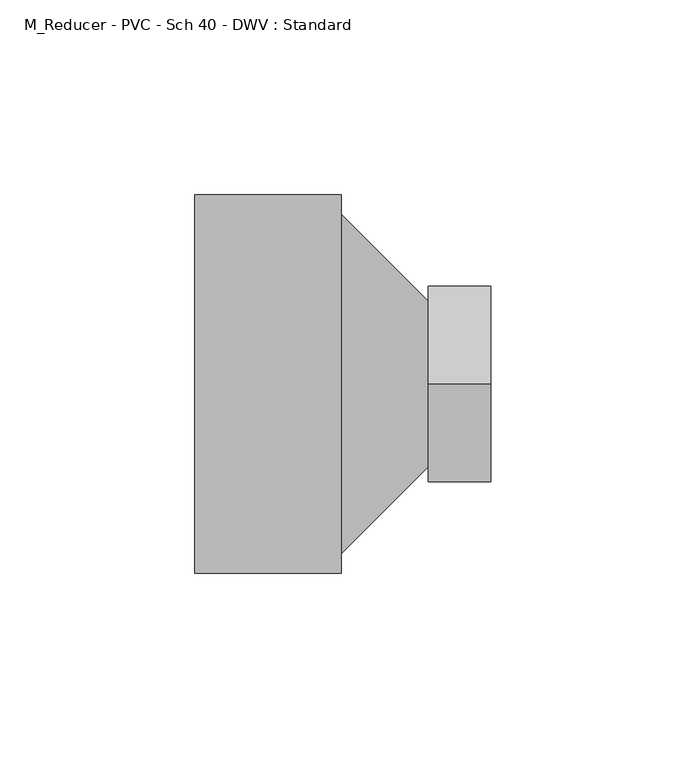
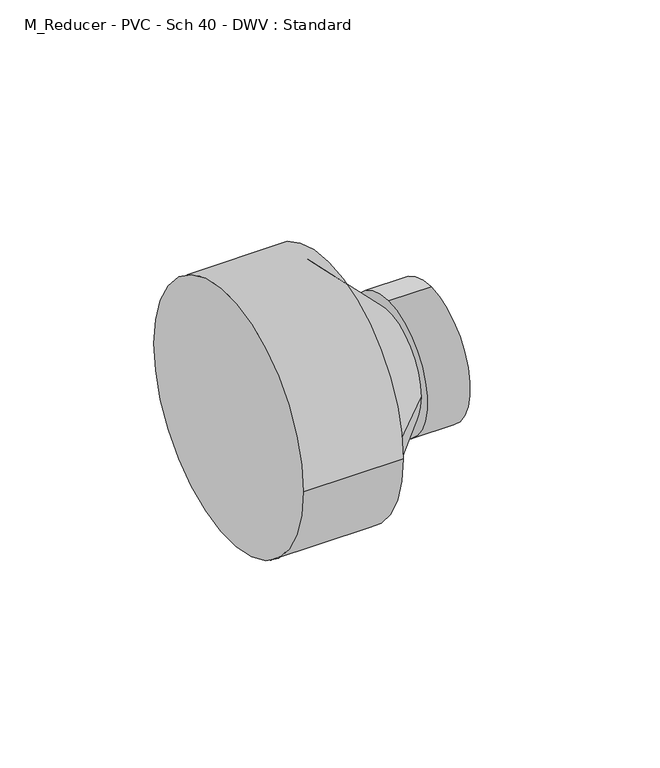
"""IFC4 building model written with IfcOpenShell, lengths in millimetres: pipe fitting geometry, M_Reducer - PVC - Sch 40 - DWV : Standard."""

from ifc_helpers import new_model, si_unit, frame, origin, place, context, project, spatial, polyline, circle_curve, source, transform, mapped, element, save
from ifc_brep_helpers import plane_surface, cylinder_surface, revolved_surface, advanced_brep


def m_reducer_pvc_sch_40_dwv_standard_5cc089c8(model_context):
    return source(origin(), model_context, "Body", "AdvancedBrep", [
        advanced_brep(
        [(0.0, -48.4871094, 0.0), (0.0, 48.4871094, 0.0), (37.5, -48.4871094, 0.0), (37.5, 48.4871094, 0.0), (37.5, 43.5640625, 0.0), (37.5, -43.5640625, 0.0), (59.9060938, 21.2040625, 0.0), (59.9060938, -21.2040625, 0.0), (59.9060938, 0.0, 25.2671094), (59.9060938, 0.0, -25.2671094), (75.9060938, 0.0, 25.2671094), (75.9060938, 0.0, -25.2671094)],
        [
            (0, 1, circle_curve(frame((0.0, 0.0, 0.0), z_axis=(-1.0, 0.0, 0.0), x_axis=(0.0, 1.0, 0.0)), 48.4871094)),
            (1, 0, circle_curve(frame((0.0, 0.0, 0.0), z_axis=(-1.0, 0.0, 0.0), x_axis=(0.0, 1.0, 0.0)), 48.4871094)),
            (2, 3, circle_curve(frame((37.5, 0.0, 0.0), z_axis=(1.0, 0.0, 0.0), x_axis=(0.0, 1.0, 0.0)), 48.4871094)),
            (3, 2, circle_curve(frame((37.5, 0.0, 0.0), z_axis=(1.0, 0.0, 0.0), x_axis=(0.0, 1.0, 0.0)), 48.4871094)),
            (4, 5, circle_curve(frame((37.5, 0.0, 0.0), z_axis=(-1.0, 0.0, 0.0), x_axis=(0.0, -1.0, 0.0)), 43.5640625)),
            (5, 4, circle_curve(frame((37.5, 0.0, 0.0), z_axis=(-1.0, 0.0, 0.0), x_axis=(0.0, 1.0, 0.0)), 43.5640625)),
            (0, 2),
            (3, 1),
            (4, 6),
            (6, 7, circle_curve(frame((59.9060938, 0.0, 0.0), z_axis=(-1.0, 0.0, 0.0), x_axis=(0.0, -1.0, 0.0)), 21.2040625)),
            (7, 5),
            (7, 6, circle_curve(frame((59.9060938, 0.0, 0.0), z_axis=(-1.0, 0.0, 0.0), x_axis=(0.0, 1.0, 0.0)), 21.2040625)),
            (8, 9, circle_curve(frame((59.9060938, 0.0, 0.0), z_axis=(-1.0, 0.0, 0.0), x_axis=(0.0, 0.0, -1.0)), 25.2671094)),
            (9, 8, circle_curve(frame((59.9060938, 0.0, 0.0), z_axis=(-1.0, 0.0, 0.0), x_axis=(0.0, 0.0, -1.0)), 25.2671094)),
            (10, 11, circle_curve(frame((75.9060938, 0.0, 0.0), z_axis=(1.0, 0.0, 0.0), x_axis=(0.0, 0.0, -1.0)), 25.2671094)),
            (11, 10, circle_curve(frame((75.9060938, 0.0, 0.0), z_axis=(1.0, 0.0, 0.0), x_axis=(0.0, 0.0, -1.0)), 25.2671094)),
            (8, 10),
            (11, 9),
        ],
        [
            plane_surface(frame((0.0, 0.0, 0.0), z_axis=(-1.0, 0.0, 0.0), x_axis=(0.0, 0.0, 1.0))),
            plane_surface(frame((37.5, 0.0, 0.0), z_axis=(1.0, 0.0, 0.0), x_axis=(0.0, 0.0, 1.0))),
            cylinder_surface(frame((0.0, 0.0, 0.0), z_axis=(-1.0, 0.0, 0.0), x_axis=(0.0, 1.0, 0.0)), 48.4871094),
            revolved_surface(polyline([(59.9060938, 21.20406244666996, 0.0), (37.5, 43.5640625, 0.0)]), (81.1538671, 0.0, 0.0), (-1.0, 0.0, 0.0)),
            plane_surface(frame((59.9060938, 0.0, 0.0), z_axis=(-1.0, 0.0, 0.0), x_axis=(0.0, 1.0, 0.0))),
            plane_surface(frame((75.9060938, 0.0, 0.0), z_axis=(1.0, 0.0, 0.0), x_axis=(0.0, 1.0, 0.0))),
            cylinder_surface(frame((59.9060938, 0.0, 0.0), z_axis=(-1.0, 0.0, 0.0), x_axis=(0.0, 0.0, -1.0)), 25.2671094),
        ],
        [
            (0, [[1, 2]]),
            (1, [[3, 4], [5, 6]]),
            (2, [[-1, 7, -4, 8]]),
            (2, [[-2, -8, -3, -7]]),
            (3, [[9, 10, 11, -5]]),
            (3, [[-9, -6, -11, 12]]),
            (4, [[13, 14], [-10, -12]]),
            (5, [[15, 16]]),
            (6, [[-13, 17, -16, 18]]),
            (6, [[-14, -18, -15, -17]]),
        ],
    ),
    ])


if __name__ == "__main__":
    model = new_model("IFC4")
    model_context = context("Model", 3, world=origin())
    ifc_project = project(units=[si_unit("LENGTHUNIT", "METRE", prefix="MILLI")], contexts=[model_context])
    site = spatial("IfcSite", under=ifc_project)
    building = spatial("IfcBuilding", under=site)
    placement = place(None, origin())
    m_reducer_pvc_sch_40_dwv_standard_shape = m_reducer_pvc_sch_40_dwv_standard_5cc089c8(model_context)
    element("IfcPipeFitting", 1, ObjectType="M_Reducer - PVC - Sch 40 - DWV : Standard", at=placement, inside=building, context=model_context, shape_type="MappedRepresentation", body=[
        mapped(m_reducer_pvc_sch_40_dwv_standard_shape, transform((0.0, 0.0, 0.0), x_axis=(1.0, 0.0, 0.0), y_axis=(0.0, 1.0, 0.0), z_axis=(0.0, 0.0, 1.0))),
    ])
    save(model, "model.ifc")
